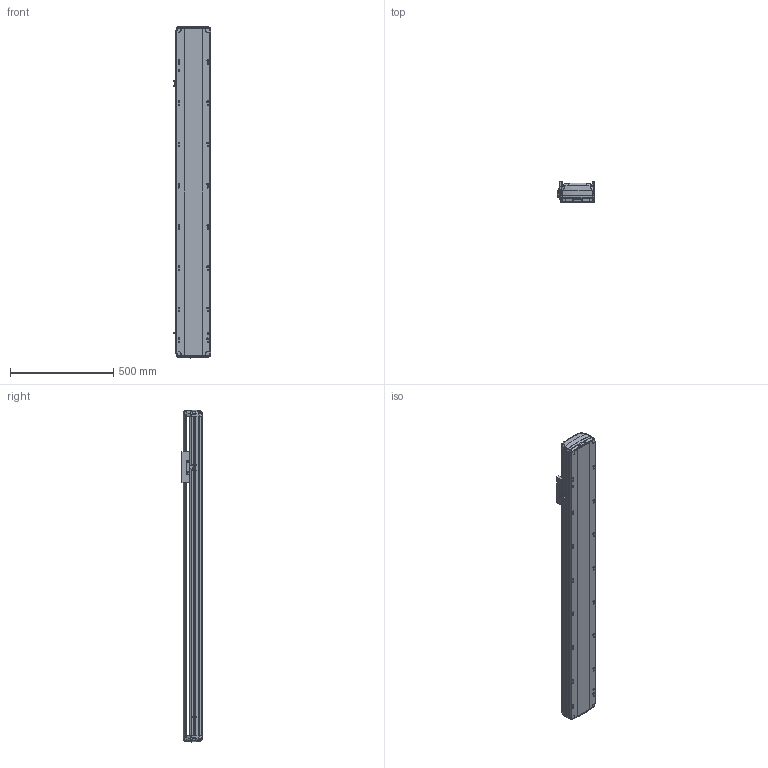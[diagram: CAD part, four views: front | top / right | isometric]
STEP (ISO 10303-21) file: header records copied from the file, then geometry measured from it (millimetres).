
FILE_DESCRIPTION (( 'STEP AP214' ), '1' );
FILE_NAME ('RTH17-XX-1200-B-M40-C4.STEP', '2025-10-24T08:40:02', ( '' ), ( '' ), 'SwSTEP 2.0', 'SolidWorks 2018', '' );
FILE_SCHEMA (( 'AUTOMOTIVE_DESIGN' ));
Length unit declared in the file: millimetre
Products named in the file (7): N_OMRON EE-SX672 換覜ん^RTH17-XX-XX-B-M40-C4ㄗ源最宒ㄘ; N_RTH17-GY-001P^RTH17-XX-XX-B-M40-C4（方程式）; N_RTH-L-012 感应片(外置)^RTH17-XX-XX-B-M40-C4（方程式）; N_RTH17-M-007上盖^RTH17-XX-XX-B-M40-C4（方程式）; N_RTH17-E-004丝杆螺母连接座^RTH17-XX-XX-B-M40-C4（方程式）; RTH17-XX-1200-B-M40-C4; N_RTH17-M-011底座^RTH17-XX-XX-B-M40-C4（方程式）
Assembly tree (9 placements, depth 2):
  RTH17-XX-1200-B-M40-C4
    N_RTH17-M-011底座^RTH17-XX-XX-B-M40-C4（方程式）
    N_RTH17-M-007上盖^RTH17-XX-XX-B-M40-C4（方程式）
    N_OMRON EE-SX672 換覜ん^RTH17-XX-XX-B-M40-C4ㄗ源最宒ㄘ  x3
    N_RTH-L-012 感应片(外置)^RTH17-XX-XX-B-M40-C4（方程式）
    N_RTH17-E-004丝杆螺母连接座^RTH17-XX-XX-B-M40-C4（方程式）
    N_RTH17-GY-001P^RTH17-XX-XX-B-M40-C4（方程式）  x2
Bounding box: 183.5 x 97 x 1609.88 mm (x, y, z)
Volume: 11646822.7 mm3; surface area: 1575481.3 mm2
Topology: 7 solids, 11 shells, 1768 faces, 4988 edges, 3242 vertices
Faces by surface type: plane 815, cylinder 487, bspline 420, cone 28, torus 18
Entity records: 42582 total; most frequent: CARTESIAN_POINT 17551, ORIENTED_EDGE 5480, DIRECTION 4336, EDGE_CURVE 2744, VERTEX_POINT 1796, VECTOR 1472, LINE 1472, AXIS2_PLACEMENT_3D 1432
